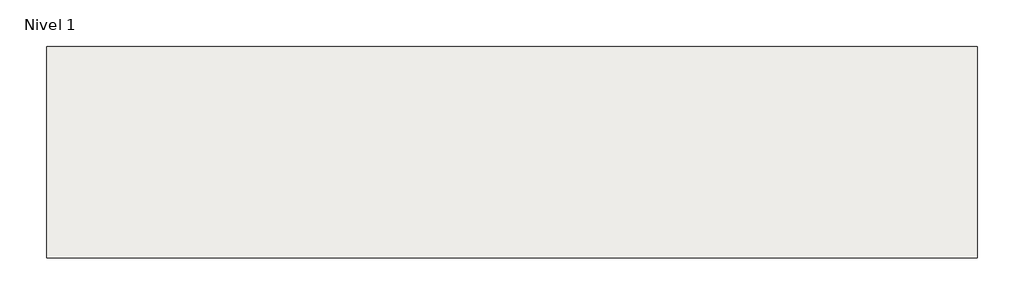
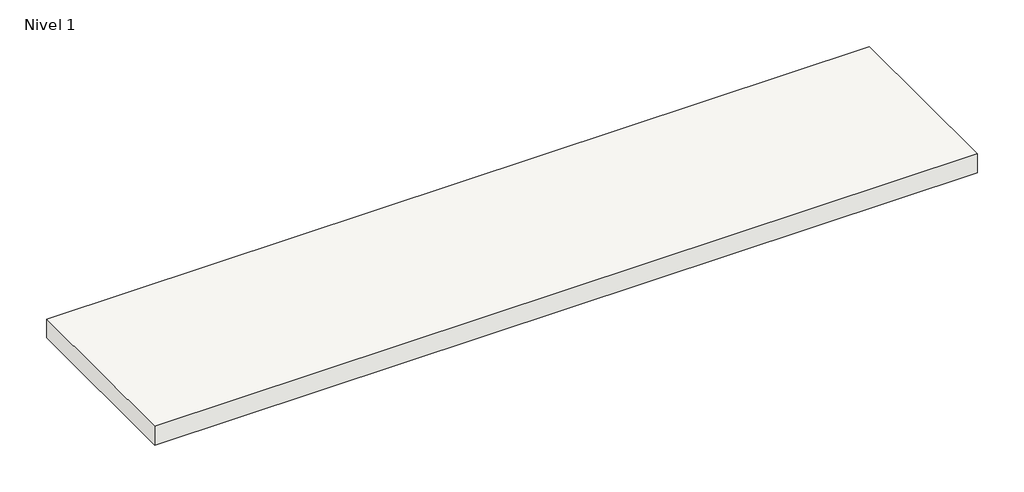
# One storey, incomplete: 1 slab.
"""IFC4 building model written with IfcOpenShell, lengths in millimetres."""

import ifcopenshell
import ifcopenshell.guid

model = None  # the IFC model being written
_history = None  # IfcOwnerHistory: only IFC2X3 demands one
_inside = {}  # id of a spatial element -> (the spatial element, [elements in it])
_under = {}  # id of a project, library or spatial element -> (it, [spatial elements below it])
_declared = {}  # id of a project -> (the project, [libraries it declares])
_typed = {}  # id of a type object -> (the type object, [elements of that type])
_made_of = {}  # id of a material, layer set ... -> (it, [elements and type objects made of it])


def new_model(schema):
    """Start an empty IFC model of exactly this schema.

    Asked for "IFC4X3", IfcOpenShell would pick the latest addendum, in which some entities
    have other attributes; the version numbers below select the first issue.
    IFC2X3 requires an IfcOwnerHistory on every rooted entity: one is made here for all.
    """
    global model, _history
    if schema == "IFC4X3":
        model = ifcopenshell.file(schema_version=(4, 3, 0, 0))
    else:
        model = ifcopenshell.file(schema=schema)
    _inside.clear()
    _under.clear()
    _declared.clear()
    _typed.clear()
    _made_of.clear()
    _history = None
    if model.schema == "IFC2X3":
        org = make("IfcOrganization", Name="unknown")
        user = make(
            "IfcPersonAndOrganization",
            ThePerson=make("IfcPerson", FamilyName="unknown"),
            TheOrganization=org,
        )
        app = make(
            "IfcApplication",
            ApplicationDeveloper=org,
            Version="unknown",
            ApplicationFullName="unknown",
            ApplicationIdentifier="unknown",
        )
        _history = make(
            "IfcOwnerHistory",
            OwningUser=user,
            OwningApplication=app,
            ChangeAction="ADDED",
            CreationDate=0,
        )
    return model


def make(cls, **values):
    """One entity of the class cls with the attributes given. An attribute that is None is left unset."""
    return model.create_entity(
        cls, **{name: value for name, value in values.items() if value is not None}
    )


def rooted(cls, **values):
    """An entity with a GlobalId (a new one), such as an element, a storey or a relation."""
    return make(cls, GlobalId=ifcopenshell.guid.new(), OwnerHistory=_history, **values)


def si_unit(unit_type, name, prefix=None):
    """IfcSIUnit, for example si_unit("LENGTHUNIT", "METRE", prefix="MILLI")."""
    return make("IfcSIUnit", UnitType=unit_type, Prefix=prefix, Name=name)


def assignment(units):
    """IfcUnitAssignment: the units of a project."""
    return None if units is None else make("IfcUnitAssignment", Units=units)


def point(xyz):
    """IfcCartesianPoint."""
    return None if xyz is None else make("IfcCartesianPoint", Coordinates=xyz)


def direction(xyz):
    """IfcDirection."""
    return None if xyz is None else make("IfcDirection", DirectionRatios=xyz)


def frame(location, z_axis=None, x_axis=None):
    """IfcAxis2Placement3D, a coordinate frame: its origin and axes. An axis left out is left unset."""
    return make(
        "IfcAxis2Placement3D",
        Location=point(location),
        Axis=direction(z_axis),
        RefDirection=direction(x_axis),
    )


def origin():
    """The frame at (0, 0, 0) with its axes left unset."""
    return frame((0.0, 0.0, 0.0))


def place(relative_to, where):
    """IfcLocalPlacement: puts the frame where relative to a parent placement (None: the world)."""
    return make(
        "IfcLocalPlacement", PlacementRelTo=relative_to, RelativePlacement=where
    )


def context(
    kind, dimensions, precision=None, world=None, true_north=None, identifier=None
):
    """IfcGeometricRepresentationContext, for example the 3D "Model" context."""
    return make(
        "IfcGeometricRepresentationContext",
        ContextIdentifier=identifier,
        ContextType=kind,
        CoordinateSpaceDimension=dimensions,
        Precision=precision,
        WorldCoordinateSystem=world,
        TrueNorth=true_north,
    )


def project(units=None, contexts=None):
    """IfcProject with its units and contexts."""
    return rooted(
        "IfcProject",
        Name="project",
        RepresentationContexts=contexts,
        UnitsInContext=assignment(units),
    )


def spatial(cls, under=None, at=None, **own):
    """A site, building, storey or space (cls), placed at a placement, below another one or the project."""
    s = rooted(cls, ObjectPlacement=at, **own)
    if under is not None:
        _under.setdefault(under.id(), (under, []))[1].append(s)
    return s


def polyline(points):
    """IfcPolyline through the points."""
    return make("IfcPolyline", Points=[point(p) for p in points])


def outline(outer, holes=None, kind="AREA"):
    """IfcArbitraryClosedProfileDef: a profile drawn as a closed curve; with holes, ...WithVoids."""
    if holes is None:
        return make("IfcArbitraryClosedProfileDef", ProfileType=kind, OuterCurve=outer)
    return make(
        "IfcArbitraryProfileDefWithVoids",
        ProfileType=kind,
        OuterCurve=outer,
        InnerCurves=holes,
    )


def extrude(swept, where, along, depth):
    """IfcExtrudedAreaSolid: the profile swept, set in the frame where, extruded along a direction by depth."""
    return make(
        "IfcExtrudedAreaSolid",
        SweptArea=swept,
        Position=where,
        ExtrudedDirection=direction(along),
        Depth=depth,
    )


def shape(context_of_items, identifier, shape_type, items):
    """IfcShapeRepresentation: the items that make up one representation, for example the "Body"."""
    return make(
        "IfcShapeRepresentation",
        ContextOfItems=context_of_items,
        RepresentationIdentifier=identifier,
        RepresentationType=shape_type,
        Items=items,
    )


def made_of(thing, what):
    """Note that an element or type object is made of a material, layer set ...; save() writes the relation."""
    if what is not None:
        _made_of.setdefault(what.id(), (what, []))[1].append(thing)
    return thing


def element(
    cls,
    number,
    at=None,
    inside=None,
    cuts=None,
    type_object=None,
    material=None,
    context=None,
    identifier="Body",
    shape_type=None,
    held_by="IfcProductDefinitionShape",
    body=None,
    shapes=None,
    **own,
):
    """One element of the class cls, such as IfcWall. Its Tag is "e" and its number.

    at: its placement. inside: the storey or other place that contains it. cuts: it is an
    opening in that element (IfcRelVoidsElement). A single representation is given by context,
    identifier, shape_type and body (its items); several are given by shapes. held_by: the class
    of the entity that holds the representations. save() writes the other relations.
    """
    e = rooted(cls, Tag="e%d" % number, ObjectPlacement=at, **own)
    if body is not None:
        shapes = [shape(context, identifier, shape_type, body)]
    if shapes is not None:
        e.Representation = make(held_by, Representations=shapes)
    if inside is not None:
        _inside.setdefault(inside.id(), (inside, []))[1].append(e)
    if cuts is not None:
        rooted(
            "IfcRelVoidsElement", RelatingBuildingElement=cuts, RelatedOpeningElement=e
        )
    if type_object is not None:
        _typed.setdefault(type_object.id(), (type_object, []))[1].append(e)
    return made_of(e, material)


def aggregate(whole, parts):
    """IfcRelAggregates: a whole, such as a stair, and the parts it consists of."""
    return rooted("IfcRelAggregates", RelatingObject=whole, RelatedObjects=parts)


def save(model, path):
    """Write the relations noted so far, then the file.

    IfcRelAggregates (storeys below a building ...), IfcRelContainedInSpatialStructure (elements
    in a storey), IfcRelDefinesByType, IfcRelAssociatesMaterial and IfcRelDeclares: one each for
    every whole, place, type object, material and project.
    """
    for whole, parts in _under.values():
        aggregate(whole, parts)
    for where, things in _inside.values():
        rooted(
            "IfcRelContainedInSpatialStructure",
            RelatedElements=things,
            RelatingStructure=where,
        )
    for kind, things in _typed.values():
        rooted("IfcRelDefinesByType", RelatedObjects=things, RelatingType=kind)
    for what, things in _made_of.values():
        rooted("IfcRelAssociatesMaterial", RelatedObjects=things, RelatingMaterial=what)
    for by, libraries in _declared.values():
        rooted("IfcRelDeclares", RelatingContext=by, RelatedDefinitions=libraries)
    model.write(path)


model = new_model("IFC4")

# Units and contexts
model_context = context("Model", 3, world=origin())
ifc_project = project(units=[si_unit("LENGTHUNIT", "METRE", prefix="MILLI")], contexts=[model_context])

# Site, building, storey
site = spatial("IfcSite", under=ifc_project)
building = spatial("IfcBuilding", under=site)
storey = spatial("IfcBuildingStorey", under=building, Name="Nivel 1", Elevation=0.0)

# Slab
placement = place(None, origin())
element("IfcSlab", 1, ObjectType="Por defecto - 30 cm", at=placement, inside=storey, context=model_context, shape_type="SweptSolid", body=[
    extrude(outline(polyline([(35892.4519756, -95.0072625), (35892.4519756, -2895.0072625), (23592.4519756, -2895.0072625), (23592.4519756, -95.0072625), (35892.4519756, -95.0072625)])), frame((0.0, 0.0, -300.0), z_axis=(0.0, 0.0, 1.0), x_axis=(1.0, 0.0, 0.0)), (0.0, 0.0, 1.0), 300.0),
])

save(model, "model.ifc")
